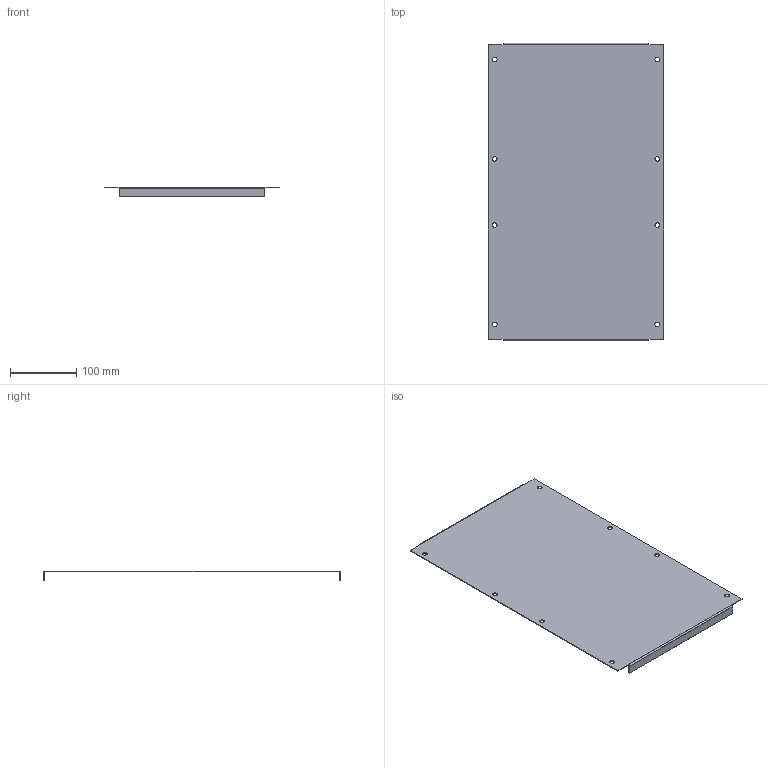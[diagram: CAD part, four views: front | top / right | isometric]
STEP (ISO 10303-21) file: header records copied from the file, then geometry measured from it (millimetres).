
FILE_DESCRIPTION (( 'STEP AP203' ), '1' );
FILE_NAME ('MB 45.30 Ïàíåëü ìîäóëüíàÿ.STEP', '2022-05-12T11:39:00', ( '' ), ( '' ), 'SwSTEP 2.0', 'SolidWorks 2018', '' );
FILE_SCHEMA (( 'CONFIG_CONTROL_DESIGN' ));
Length unit declared in the file: millimetre
Products named in the file (1): MB 45.30 Ïàíåëü ìîäóëüíàÿ
Bounding box: 265 x 449 x 15 mm (x, y, z)
Volume: 149046.6 mm3; surface area: 250398.3 mm2
Topology: 1 solids, 1 shells, 42 faces, 104 edges, 64 vertices
Faces by surface type: plane 22, cylinder 20
Entity records: 1349 total; most frequent: DIRECTION 230, CARTESIAN_POINT 211, ORIENTED_EDGE 208, EDGE_CURVE 104, AXIS2_PLACEMENT_3D 83, VECTOR 64, LINE 64, VERTEX_POINT 64
